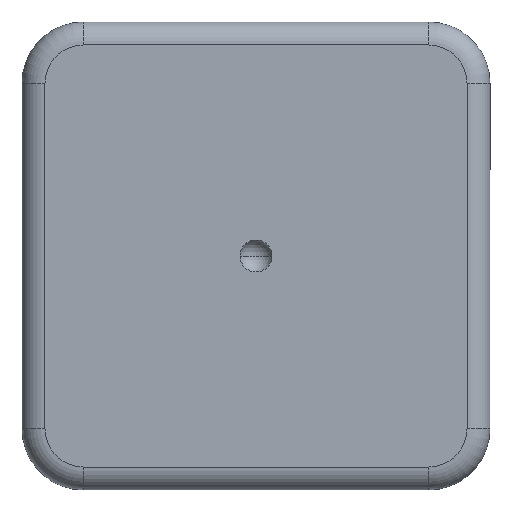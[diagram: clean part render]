
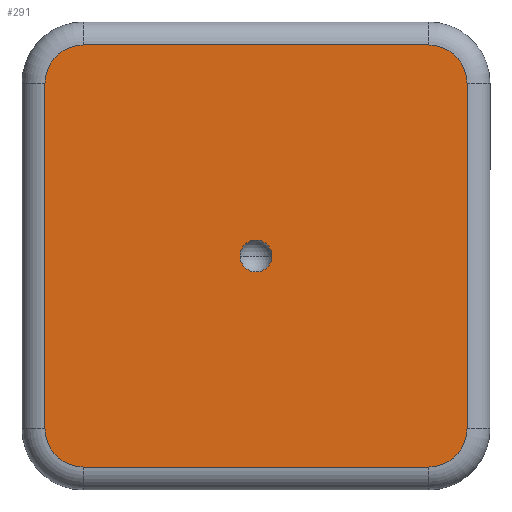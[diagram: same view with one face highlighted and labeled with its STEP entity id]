
A CAD part, front view. The second image highlights one B-rep face of the part: STEP entity #291.
In plain terms, the highlighted planar face has unit normal (0, -1, 0).
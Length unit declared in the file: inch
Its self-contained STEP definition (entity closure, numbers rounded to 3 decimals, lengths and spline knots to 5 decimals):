
#59 = VERTEX_POINT ( 'NONE', #2827 ) ;
#76 = VERTEX_POINT ( 'NONE', #2867 ) ;
#82 = VERTEX_POINT ( 'NONE', #2846 ) ;
#88 = EDGE_CURVE ( 'NONE', #59, #90, #2900, .T. ) ;
#90 = VERTEX_POINT ( 'NONE', #2894 ) ;
#101 = EDGE_CURVE ( 'NONE', #76, #103, #2871, .T. ) ;
#103 = VERTEX_POINT ( 'NONE', #2933 ) ;
#106 = VERTEX_POINT ( 'NONE', #2923 ) ;
#110 = EDGE_CURVE ( 'NONE', #82, #106, #2887, .T. ) ;
#120 = VERTEX_POINT ( 'NONE', #2922 ) ;
#128 = VERTEX_POINT ( 'NONE', #2990 ) ;
#129 = EDGE_CURVE ( 'NONE', #128, #120, #2993, .T. ) ;
#258 = EDGE_LOOP ( 'NONE', ( #292, #293 ) ) ;
#261 = EDGE_LOOP ( 'NONE', ( #271, #280, #286, #263, #306, #287, #301, #275 ) ) ;
#263 = ORIENTED_EDGE ( 'NONE', *, *, #110, .T. ) ;
#271 = ORIENTED_EDGE ( 'NONE', *, *, #278, .T. ) ;
#275 = ORIENTED_EDGE ( 'NONE', *, *, #101, .T. ) ;
#278 = EDGE_CURVE ( 'NONE', #103, #59, #3247, .T. ) ;
#280 = ORIENTED_EDGE ( 'NONE', *, *, #88, .T. ) ;
#281 = EDGE_CURVE ( 'NONE', #6477, #6479, #3306, .T. ) ;
#283 = EDGE_CURVE ( 'NONE', #106, #128, #3294, .T. ) ;
#286 = ORIENTED_EDGE ( 'NONE', *, *, #289, .T. ) ;
#287 = ORIENTED_EDGE ( 'NONE', *, *, #129, .T. ) ;
#289 = EDGE_CURVE ( 'NONE', #90, #82, #3289, .T. ) ;
#291 = ADVANCED_FACE ( 'NONE', ( #3299, #3295 ), #3279, .F. ) ;
#292 = ORIENTED_EDGE ( 'NONE', *, *, #281, .T. ) ;
#293 = ORIENTED_EDGE ( 'NONE', *, *, #6417, .T. ) ;
#301 = ORIENTED_EDGE ( 'NONE', *, *, #307, .T. ) ;
#306 = ORIENTED_EDGE ( 'NONE', *, *, #283, .T. ) ;
#307 = EDGE_CURVE ( 'NONE', #120, #76, #3311, .T. ) ;
#2827 = CARTESIAN_POINT ( 'NONE',  ( 1.14748, -0.9, -0.9395 ) ) ;
#2846 = CARTESIAN_POINT ( 'NONE',  ( 0.9395, -0.9, 1.14748 ) ) ;
#2867 = CARTESIAN_POINT ( 'NONE',  ( -0.9395, -0.9, -1.14748 ) ) ;
#2871 = LINE ( 'NONE', #2937, #2936 ) ;
#2886 = CARTESIAN_POINT ( 'NONE',  ( -0.9395, -0.9, 1.14748 ) ) ;
#2887 = LINE ( 'NONE', #2886, #2915 ) ;
#2889 = DIRECTION ( 'NONE',  ( 0., 0., 1. ) ) ;
#2890 = VECTOR ( 'NONE', #2889, 39.37008 ) ;
#2891 = CARTESIAN_POINT ( 'NONE',  ( 1.14748, -0.9, 0.9395 ) ) ;
#2894 = CARTESIAN_POINT ( 'NONE',  ( 1.14748, -0.9, 0.9395 ) ) ;
#2900 = LINE ( 'NONE', #2891, #2890 ) ;
#2908 = DIRECTION ( 'NONE',  ( -1., 0., 0. ) ) ;
#2915 = VECTOR ( 'NONE', #2908, 39.37008 ) ;
#2922 = CARTESIAN_POINT ( 'NONE',  ( -1.14748, -0.9, -0.9395 ) ) ;
#2923 = CARTESIAN_POINT ( 'NONE',  ( -0.9395, -0.9, 1.14748 ) ) ;
#2933 = CARTESIAN_POINT ( 'NONE',  ( 0.9395, -0.9, -1.14748 ) ) ;
#2935 = DIRECTION ( 'NONE',  ( 1., 0., 0. ) ) ;
#2936 = VECTOR ( 'NONE', #2935, 39.37008 ) ;
#2937 = CARTESIAN_POINT ( 'NONE',  ( 0.9395, -0.9, -1.14748 ) ) ;
#2976 = DIRECTION ( 'NONE',  ( 0., 0., -1. ) ) ;
#2977 = VECTOR ( 'NONE', #2976, 39.37008 ) ;
#2990 = CARTESIAN_POINT ( 'NONE',  ( -1.14748, -0.9, 0.9395 ) ) ;
#2992 = CARTESIAN_POINT ( 'NONE',  ( -1.14748, -0.9, -0.9395 ) ) ;
#2993 = LINE ( 'NONE', #2992, #2977 ) ;
#3247 = CIRCLE ( 'NONE', #3305, 0.20798 ) ;
#3250 = AXIS2_PLACEMENT_3D ( 'NONE', #3302, #3301, #3298 ) ;
#3252 = AXIS2_PLACEMENT_3D ( 'NONE', #3334, #3333, #3332 ) ;
#3254 = CARTESIAN_POINT ( 'NONE',  ( 0.9395, -0.9, -0.9395 ) ) ;
#3275 = DIRECTION ( 'NONE',  ( 0., 0., 1. ) ) ;
#3276 = DIRECTION ( 'NONE',  ( 0., -1., 0. ) ) ;
#3279 = PLANE ( 'NONE',  #3252 ) ;
#3282 = CARTESIAN_POINT ( 'NONE',  ( 0.9395, -0.9, 0.9395 ) ) ;
#3283 = AXIS2_PLACEMENT_3D ( 'NONE', #3282, #3276, #3275 ) ;
#3289 = CIRCLE ( 'NONE', #3283, 0.20798 ) ;
#3291 = DIRECTION ( 'NONE',  ( 0., 0., 1. ) ) ;
#3292 = DIRECTION ( 'NONE',  ( 0., -1., 0. ) ) ;
#3293 = AXIS2_PLACEMENT_3D ( 'NONE', #3300, #3292, #3291 ) ;
#3294 = CIRCLE ( 'NONE', #3293, 0.20798 ) ;
#3295 = FACE_OUTER_BOUND ( 'NONE', #261, .T. ) ;
#3298 = DIRECTION ( 'NONE',  ( -1., 0., 0. ) ) ;
#3299 = FACE_BOUND ( 'NONE', #258, .T. ) ;
#3300 = CARTESIAN_POINT ( 'NONE',  ( -0.9395, -0.9, 0.9395 ) ) ;
#3301 = DIRECTION ( 'NONE',  ( 0., 1., 0. ) ) ;
#3302 = CARTESIAN_POINT ( 'NONE',  ( 0., -0.9, 0. ) ) ;
#3303 = DIRECTION ( 'NONE',  ( 0., 0., 1. ) ) ;
#3304 = DIRECTION ( 'NONE',  ( 0., -1., 0. ) ) ;
#3305 = AXIS2_PLACEMENT_3D ( 'NONE', #3254, #3304, #3303 ) ;
#3306 = CIRCLE ( 'NONE', #3250, 0.08695 ) ;
#3311 = CIRCLE ( 'NONE', #3371, 0.20798 ) ;
#3331 = CARTESIAN_POINT ( 'NONE',  ( -0.9395, -0.9, -0.9395 ) ) ;
#3332 = DIRECTION ( 'NONE',  ( 0., 0., 1. ) ) ;
#3333 = DIRECTION ( 'NONE',  ( 0., 1., 0. ) ) ;
#3334 = CARTESIAN_POINT ( 'NONE',  ( 0.9395, -0.9, 0.9395 ) ) ;
#3369 = DIRECTION ( 'NONE',  ( 0., 0., 1. ) ) ;
#3370 = DIRECTION ( 'NONE',  ( 0., -1., 0. ) ) ;
#3371 = AXIS2_PLACEMENT_3D ( 'NONE', #3331, #3370, #3369 ) ;
#6417 = EDGE_CURVE ( 'NONE', #6479, #6477, #8881, .T. ) ;
#6477 = VERTEX_POINT ( 'NONE', #8988 ) ;
#6479 = VERTEX_POINT ( 'NONE', #8989 ) ;
#8864 = DIRECTION ( 'NONE',  ( -1., 0., 0. ) ) ;
#8865 = DIRECTION ( 'NONE',  ( 0., 1., 0. ) ) ;
#8866 = CARTESIAN_POINT ( 'NONE',  ( 0., -0.9, 0. ) ) ;
#8867 = AXIS2_PLACEMENT_3D ( 'NONE', #8866, #8865, #8864 ) ;
#8881 = CIRCLE ( 'NONE', #8867, 0.08695 ) ;
#8988 = CARTESIAN_POINT ( 'NONE',  ( 0.08695, -0.9, 0. ) ) ;
#8989 = CARTESIAN_POINT ( 'NONE',  ( -0.08695, -0.9, 0. ) ) ;
